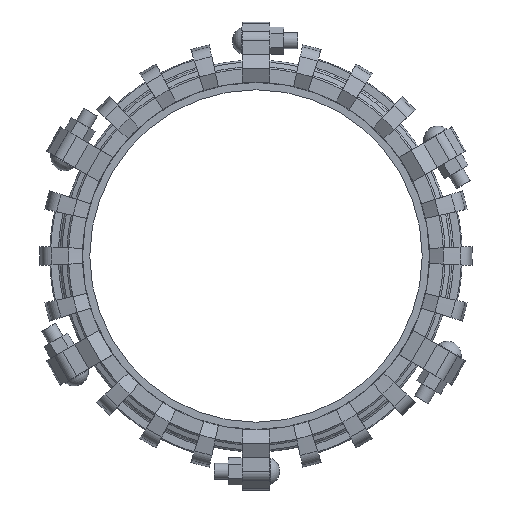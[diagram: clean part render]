
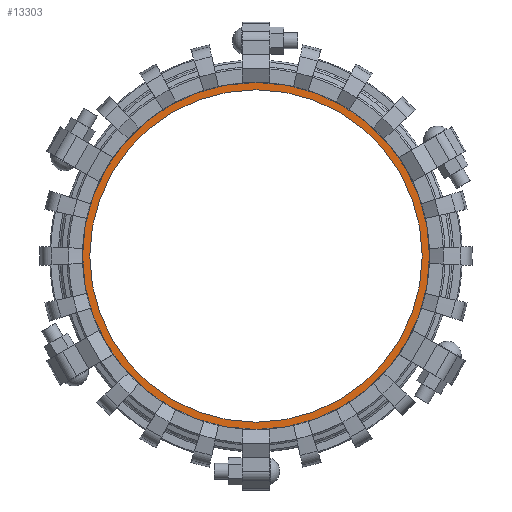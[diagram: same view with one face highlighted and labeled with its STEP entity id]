
A CAD part, top view. The second image highlights one B-rep face of the part: STEP entity #13303.
In plain terms, the highlighted planar face has unit normal (0, 0, 1).
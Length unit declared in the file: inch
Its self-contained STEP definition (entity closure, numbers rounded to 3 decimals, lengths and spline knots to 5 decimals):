
#447=FACE_BOUND('',#1445,.T.);
#481=PLANE('',#14051);
#726=FACE_OUTER_BOUND('',#1444,.T.);
#1444=EDGE_LOOP('',(#8406,#8407));
#1445=EDGE_LOOP('',(#8408));
#4015=CIRCLE('',#14047,11.9);
#4018=CIRCLE('',#14052,12.9);
#4019=CIRCLE('',#14053,12.9);
#5049=VERTEX_POINT('',#20254);
#5052=VERTEX_POINT('',#20263);
#5053=VERTEX_POINT('',#20264);
#6384=EDGE_CURVE('',#5049,#5049,#4015,.T.);
#6387=EDGE_CURVE('',#5052,#5053,#4018,.T.);
#6388=EDGE_CURVE('',#5053,#5052,#4019,.T.);
#8406=ORIENTED_EDGE('',*,*,#6387,.F.);
#8407=ORIENTED_EDGE('',*,*,#6388,.F.);
#8408=ORIENTED_EDGE('',*,*,#6384,.T.);
#13303=ADVANCED_FACE('',(#726,#447),#481,.T.);
#14047=AXIS2_PLACEMENT_3D('',#20256,#15816,#15817);
#14051=AXIS2_PLACEMENT_3D('',#20262,#15824,#15825);
#14052=AXIS2_PLACEMENT_3D('',#20265,#15826,#15827);
#14053=AXIS2_PLACEMENT_3D('',#20266,#15828,#15829);
#15816=DIRECTION('center_axis',(0.,0.,-1.));
#15817=DIRECTION('ref_axis',(0.,-1.,0.));
#15824=DIRECTION('center_axis',(0.,0.,1.));
#15825=DIRECTION('ref_axis',(1.,0.,0.));
#15826=DIRECTION('center_axis',(0.,0.,-1.));
#15827=DIRECTION('ref_axis',(0.,1.,0.));
#15828=DIRECTION('center_axis',(0.,0.,-1.));
#15829=DIRECTION('ref_axis',(0.,1.,0.));
#20254=CARTESIAN_POINT('',(0.,11.9,0.095));
#20256=CARTESIAN_POINT('Origin',(0.,0.,0.095));
#20262=CARTESIAN_POINT('Origin',(0.,0.,
0.095));
#20263=CARTESIAN_POINT('',(0.,12.9,0.095));
#20264=CARTESIAN_POINT('',(0.,-12.9,0.095));
#20265=CARTESIAN_POINT('Origin',(0.,0.,
0.095));
#20266=CARTESIAN_POINT('Origin',(0.,0.,
0.095));
